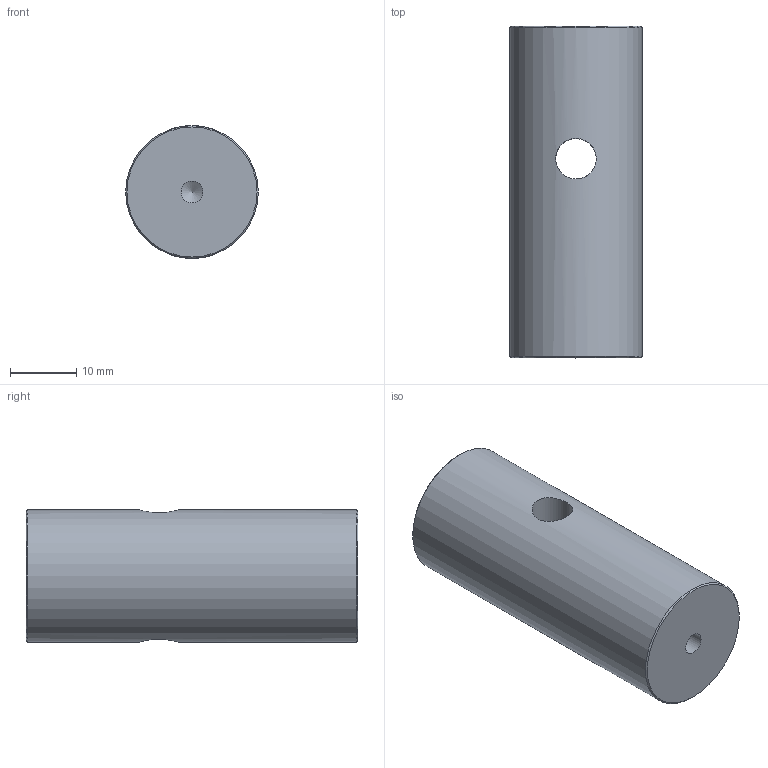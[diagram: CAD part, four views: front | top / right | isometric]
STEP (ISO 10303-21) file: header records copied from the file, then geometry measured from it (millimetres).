
FILE_DESCRIPTION (( 'STEP AP214' ), '1' );
FILE_NAME ('50mm 諉裝_phi_20.STEP', '2026-10-31T08:40:43', ( '' ), ( '' ), 'SwSTEP 2.0', 'SolidWorks 2022', '' );
FILE_SCHEMA (( 'AUTOMOTIVE_DESIGN' ));
Length unit declared in the file: millimetre
Products named in the file (1): 50mm 諉裝_phi_20
Bounding box: 20 x 50 x 20 mm (x, y, z)
Volume: 14793.2 mm3; surface area: 4368 mm2
Topology: 1 solids, 1 shells, 10 faces, 23 edges, 14 vertices
Faces by surface type: cylinder 4, cone 4, plane 2
Full cylindrical faces by diameter (mm): 3.3 x1, 5 x1, 6.1 x1, 20 x1
Entity records: 380 total; most frequent: CARTESIAN_POINT 153, DIRECTION 38, ORIENTED_EDGE 20, EDGE_LOOP 20, AXIS2_PLACEMENT_3D 19, FACE_OUTER_BOUND 14, VERTEX_POINT 10, ADVANCED_FACE 10
